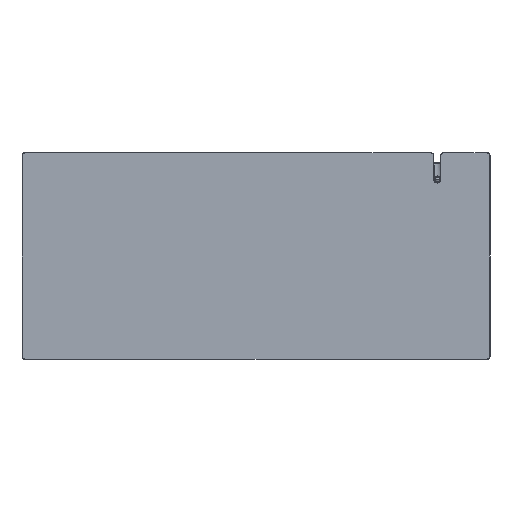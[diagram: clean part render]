
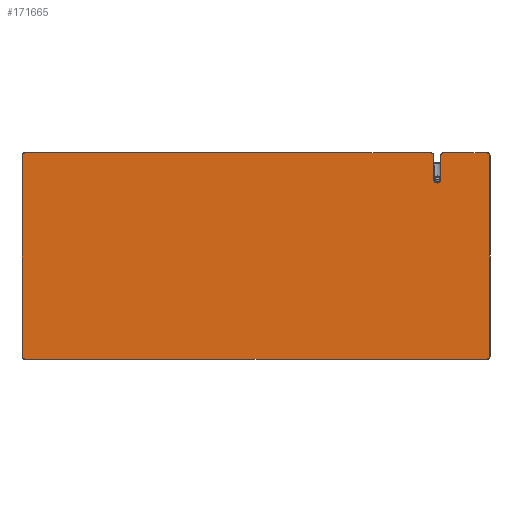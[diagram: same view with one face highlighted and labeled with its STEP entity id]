
A CAD part, top view. The second image highlights one B-rep face of the part: STEP entity #171665.
In plain terms, the highlighted planar face has unit normal (0, 0, 1).
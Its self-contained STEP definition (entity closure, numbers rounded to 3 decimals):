
#171638 = EDGE_CURVE('',#171639,#171641,#171643,.T.);
#171639 = VERTEX_POINT('',#171640);
#171640 = CARTESIAN_POINT('',(-504.,-224.5,5.));
#171641 = VERTEX_POINT('',#171642);
#171642 = CARTESIAN_POINT('',(504.,-224.5,5.));
#171643 = LINE('',#171644,#171645);
#171644 = CARTESIAN_POINT('',(-504.,-224.5,
    5.));
#171645 = VECTOR('',#171646,1.);
#171646 = DIRECTION('',(1.,0.,0.));
#171665 = ADVANCED_FACE('',(#171666),#171778,.T.);
#171666 = FACE_BOUND('',#171667,.F.);
#171667 = EDGE_LOOP('',(#171668,#171677,#171678,#171687,#171695,#171704,
    #171712,#171721,#171729,#171738,#171746,#171755,#171763,#171772));
#171668 = ORIENTED_EDGE('',*,*,#171669,.F.);
#171669 = EDGE_CURVE('',#171641,#171670,#171672,.T.);
#171670 = VERTEX_POINT('',#171671);
#171671 = CARTESIAN_POINT('',(509.5,-219.,5.));
#171672 = CIRCLE('',#171673,5.5);
#171673 = AXIS2_PLACEMENT_3D('',#171674,#171675,#171676);
#171674 = CARTESIAN_POINT('',(504.,-219.,5.));
#171675 = DIRECTION('',(0.,0.,1.));
#171676 = DIRECTION('',(0.,-1.,0.));
#171677 = ORIENTED_EDGE('',*,*,#171638,.F.);
#171678 = ORIENTED_EDGE('',*,*,#171679,.F.);
#171679 = EDGE_CURVE('',#171680,#171639,#171682,.T.);
#171680 = VERTEX_POINT('',#171681);
#171681 = CARTESIAN_POINT('',(-509.5,-219.,
    5.));
#171682 = CIRCLE('',#171683,5.5);
#171683 = AXIS2_PLACEMENT_3D('',#171684,#171685,#171686);
#171684 = CARTESIAN_POINT('',(-504.,-219.,5.));
#171685 = DIRECTION('',(0.,0.,1.));
#171686 = DIRECTION('',(-1.,0.,0.));
#171687 = ORIENTED_EDGE('',*,*,#171688,.F.);
#171688 = EDGE_CURVE('',#171689,#171680,#171691,.T.);
#171689 = VERTEX_POINT('',#171690);
#171690 = CARTESIAN_POINT('',(-509.5,219.,5.));
#171691 = LINE('',#171692,#171693);
#171692 = CARTESIAN_POINT('',(-509.5,219.,
    5.));
#171693 = VECTOR('',#171694,1.);
#171694 = DIRECTION('',(0.,-1.,0.));
#171695 = ORIENTED_EDGE('',*,*,#171696,.F.);
#171696 = EDGE_CURVE('',#171697,#171689,#171699,.T.);
#171697 = VERTEX_POINT('',#171698);
#171698 = CARTESIAN_POINT('',(-504.,224.5,
    5.));
#171699 = CIRCLE('',#171700,5.5);
#171700 = AXIS2_PLACEMENT_3D('',#171701,#171702,#171703);
#171701 = CARTESIAN_POINT('',(-504.,219.,5.));
#171702 = DIRECTION('',(0.,-0.,1.));
#171703 = DIRECTION('',(0.,1.,0.));
#171704 = ORIENTED_EDGE('',*,*,#171705,.F.);
#171705 = EDGE_CURVE('',#171706,#171697,#171708,.T.);
#171706 = VERTEX_POINT('',#171707);
#171707 = CARTESIAN_POINT('',(381.5,224.5,5.));
#171708 = LINE('',#171709,#171710);
#171709 = CARTESIAN_POINT('',(381.5,224.5,
    5.));
#171710 = VECTOR('',#171711,1.);
#171711 = DIRECTION('',(-1.,0.,0.));
#171712 = ORIENTED_EDGE('',*,*,#171713,.F.);
#171713 = EDGE_CURVE('',#171714,#171706,#171716,.T.);
#171714 = VERTEX_POINT('',#171715);
#171715 = CARTESIAN_POINT('',(387.,219.,
    5.));
#171716 = CIRCLE('',#171717,5.5);
#171717 = AXIS2_PLACEMENT_3D('',#171718,#171719,#171720);
#171718 = CARTESIAN_POINT('',(381.5,219.,5.));
#171719 = DIRECTION('',(0.,0.,1.));
#171720 = DIRECTION('',(1.,0.,-0.));
#171721 = ORIENTED_EDGE('',*,*,#171722,.F.);
#171722 = EDGE_CURVE('',#171723,#171714,#171725,.T.);
#171723 = VERTEX_POINT('',#171724);
#171724 = CARTESIAN_POINT('',(387.,167.,5.));
#171725 = LINE('',#171726,#171727);
#171726 = CARTESIAN_POINT('',(387.,167.,
    5.));
#171727 = VECTOR('',#171728,1.);
#171728 = DIRECTION('',(0.,1.,0.));
#171729 = ORIENTED_EDGE('',*,*,#171730,.F.);
#171730 = EDGE_CURVE('',#171731,#171723,#171733,.T.);
#171731 = VERTEX_POINT('',#171732);
#171732 = CARTESIAN_POINT('',(403.,167.,
    5.));
#171733 = CIRCLE('',#171734,8.);
#171734 = AXIS2_PLACEMENT_3D('',#171735,#171736,#171737);
#171735 = CARTESIAN_POINT('',(395.,167.,5.));
#171736 = DIRECTION('',(0.,0.,-1.));
#171737 = DIRECTION('',(1.,0.,0.));
#171738 = ORIENTED_EDGE('',*,*,#171739,.F.);
#171739 = EDGE_CURVE('',#171740,#171731,#171742,.T.);
#171740 = VERTEX_POINT('',#171741);
#171741 = CARTESIAN_POINT('',(403.,219.,5.));
#171742 = LINE('',#171743,#171744);
#171743 = CARTESIAN_POINT('',(403.,219.,
    5.));
#171744 = VECTOR('',#171745,1.);
#171745 = DIRECTION('',(0.,-1.,0.));
#171746 = ORIENTED_EDGE('',*,*,#171747,.F.);
#171747 = EDGE_CURVE('',#171748,#171740,#171750,.T.);
#171748 = VERTEX_POINT('',#171749);
#171749 = CARTESIAN_POINT('',(408.5,224.5,
    5.));
#171750 = CIRCLE('',#171751,5.5);
#171751 = AXIS2_PLACEMENT_3D('',#171752,#171753,#171754);
#171752 = CARTESIAN_POINT('',(408.5,219.,5.));
#171753 = DIRECTION('',(0.,-0.,1.));
#171754 = DIRECTION('',(0.,1.,0.));
#171755 = ORIENTED_EDGE('',*,*,#171756,.F.);
#171756 = EDGE_CURVE('',#171757,#171748,#171759,.T.);
#171757 = VERTEX_POINT('',#171758);
#171758 = CARTESIAN_POINT('',(504.,224.5,5.));
#171759 = LINE('',#171760,#171761);
#171760 = CARTESIAN_POINT('',(504.,224.5,
    5.));
#171761 = VECTOR('',#171762,1.);
#171762 = DIRECTION('',(-1.,0.,0.));
#171763 = ORIENTED_EDGE('',*,*,#171764,.F.);
#171764 = EDGE_CURVE('',#171765,#171757,#171767,.T.);
#171765 = VERTEX_POINT('',#171766);
#171766 = CARTESIAN_POINT('',(509.5,219.,
    5.));
#171767 = CIRCLE('',#171768,5.5);
#171768 = AXIS2_PLACEMENT_3D('',#171769,#171770,#171771);
#171769 = CARTESIAN_POINT('',(504.,219.,5.));
#171770 = DIRECTION('',(0.,0.,1.));
#171771 = DIRECTION('',(1.,0.,-0.));
#171772 = ORIENTED_EDGE('',*,*,#171773,.F.);
#171773 = EDGE_CURVE('',#171670,#171765,#171774,.T.);
#171774 = LINE('',#171775,#171776);
#171775 = CARTESIAN_POINT('',(509.5,-219.,
    5.));
#171776 = VECTOR('',#171777,1.);
#171777 = DIRECTION('',(0.,1.,0.));
#171778 = PLANE('',#171779);
#171779 = AXIS2_PLACEMENT_3D('',#171780,#171781,#171782);
#171780 = CARTESIAN_POINT('',(0.,0.,5.));
#171781 = DIRECTION('',(0.,0.,1.));
#171782 = DIRECTION('',(1.,0.,-0.));
